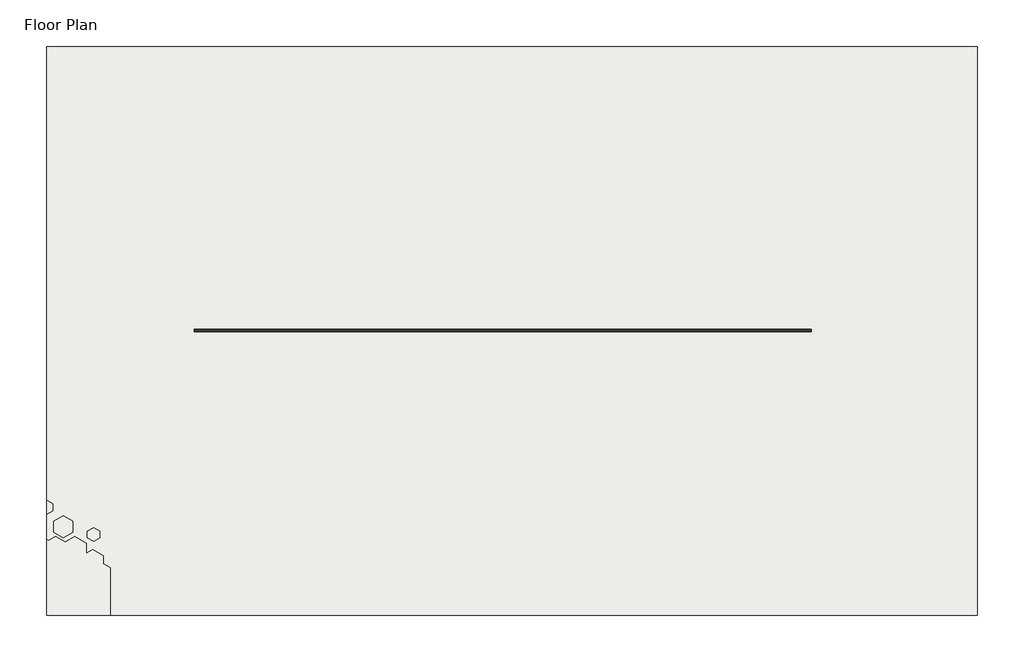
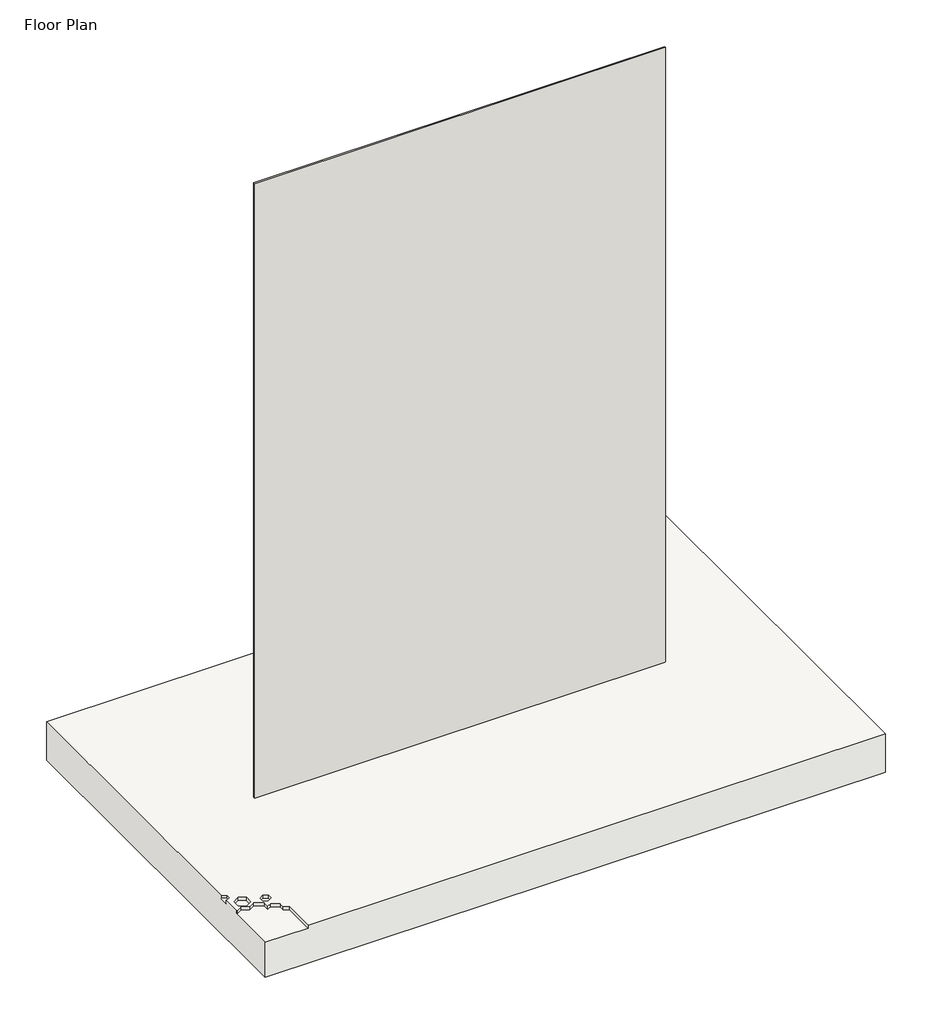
# One storey, incomplete: 1 slab, 1 wall.
"""IFC4 building model written with IfcOpenShell, lengths in millimetres."""

from ifc_helpers import new_model, si_unit, origin, origin_with_axes, place, context, project, spatial, polyline, outline, extrude, faceted_brep, element, save

model = new_model("IFC4")

# Units and contexts
model_context = context("Model", 3, world=origin())
ifc_project = project(units=[si_unit("LENGTHUNIT", "METRE", prefix="MILLI")], contexts=[model_context])

# Site, building, storey
site = spatial("IfcSite", under=ifc_project)
building = spatial("IfcBuilding", under=site)
storey = spatial("IfcBuildingStorey", under=building, Name="Floor Plan", Elevation=0.0)

# Slab
placement = place(None, origin())
element("IfcSlab", 1, ObjectType="Floor 1", at=placement, inside=storey, context=model_context, shape_type="Brep", body=[
    faceted_brep([(233669.564463, -1405.268292, -300.0), (229069.564463, -1405.268292, -300.0), (229069.564463, 1405.268292, -300.0), (233669.564463, 1405.268292, -300.0), (233669.564463, 1405.268292, 0.0), (229069.564463, 1405.268292, 0.0), (229069.564463, -838.8208533, 0.0), (229073.1211266, -836.7674126, 0.0), (229103.8301292, -854.4972635, 0.0), (229103.8301292, -887.6294851, 0.0), (229073.1211266, -905.3593361, 0.0), (229069.564463, -903.3058954, 0.0), (229069.564463, -1029.5470898, 0.0), (229079.1972272, -1035.1085689, 0.0), (229115.3908374, -1014.2121783, 0.0), (229162.4046401, -1041.3556099, 0.0), (229208.4091656, -1014.7948848, 0.0), (229267.6401701, -1048.9919211, 0.0), (229267.6401701, -1095.6301509, 0.0), (229296.9088101, -1078.7318937, 0.0), (229351.5578344, -1110.2835225, 0.0), (229351.5578344, -1149.3943664, 0.0), (229386.1988505, -1169.3943664, 0.0), (229386.1988505, -1405.268292, 0.0), (233669.564463, -1405.268292, 0.0), (229152.4226577, -913.8797767, 0.0), (229198.7748127, -940.6412058, 0.0), (229198.7748127, -995.8128392, 0.0), (229152.4226577, -1022.5742684, 0.0), (229106.0705027, -995.8128392, 0.0), (229106.0705027, -940.6412058, 0.0), (229302.5290945, -971.7658751, 0.0), (229333.3339718, -989.5510793, 0.0), (229333.3339718, -1022.1588741, 0.0), (229302.5290945, -1039.9440783, 0.0), (229271.7242172, -1022.1588741, 0.0), (229271.7242172, -989.5510793, 0.0), (229386.1988505, -1405.268292, -25.0), (229069.564463, -1405.268292, -25.0), (229069.564463, -1029.5470898, -25.0), (229069.564463, -903.3058954, -25.0), (229069.564463, -838.8208533, -25.0), (229386.1988505, -1169.3943664, -25.0), (229351.5578344, -1149.3943664, -25.0), (229351.5578344, -1110.2835225, -25.0), (229296.9088101, -1078.7318937, -25.0), (229267.6401701, -1095.6301509, -25.0), (229267.6401701, -1048.9919211, -25.0), (229208.4091656, -1014.7948848, -25.0), (229162.4046401, -1041.3556099, -25.0), (229115.3908374, -1014.2121783, -25.0), (229079.1972272, -1035.1085689, -25.0), (229198.7748127, -940.6412058, -25.0), (229152.4226577, -913.8797767, -25.0), (229106.0705027, -940.6412058, -25.0), (229106.0705027, -995.8128392, -25.0), (229152.4226577, -1022.5742684, -25.0), (229198.7748127, -995.8128392, -25.0), (229103.8301292, -854.4972635, -25.0), (229073.1211266, -836.7674126, -25.0), (229073.1211266, -905.3593361, -25.0), (229103.8301292, -887.6294851, -25.0), (229333.3339718, -989.5510793, -25.0), (229302.5290945, -971.7658751, -25.0), (229271.7242172, -989.5510793, -25.0), (229271.7242172, -1022.1588741, -25.0), (229302.5290945, -1039.9440783, -25.0), (229333.3339718, -1022.1588741, -25.0)], [[[0, 1, 2, 3]], [[4, 5, 6, 7, 8, 9, 10, 11, 12, 13, 14, 15, 16, 17, 18, 19, 20, 21, 22, 23, 24], [25, 26, 27, 28, 29, 30], [31, 32, 33, 34, 35, 36]], [[1, 0, 24, 23, 37, 38]], [[2, 1, 38, 39, 12, 11, 40, 41, 6, 5]], [[3, 2, 5, 4]], [[42, 43, 44, 45, 46, 47, 48, 49, 50, 51, 39, 38, 37]], [[52, 53, 54, 55, 56, 57]], [[58, 59, 41, 40, 60, 61]], [[62, 63, 64, 65, 66, 67]], [[42, 37, 23, 22]], [[43, 42, 22, 21]], [[44, 43, 21, 20]], [[45, 44, 20, 19]], [[46, 45, 19, 18]], [[47, 46, 18, 17]], [[48, 47, 17, 16]], [[49, 48, 16, 15]], [[50, 49, 15, 14]], [[51, 50, 14, 13]], [[39, 51, 13, 12]], [[53, 52, 26, 25]], [[54, 53, 25, 30]], [[55, 54, 30, 29]], [[56, 55, 29, 28]], [[57, 56, 28, 27]], [[52, 57, 27, 26]], [[59, 58, 8, 7]], [[41, 59, 7, 6]], [[60, 40, 11, 10]], [[61, 60, 10, 9]], [[58, 61, 9, 8]], [[63, 62, 32, 31]], [[64, 63, 31, 36]], [[65, 64, 36, 35]], [[66, 65, 35, 34]], [[67, 66, 34, 33]], [[62, 67, 33, 32]], [[0, 3, 4, 24]]]),
])

# Wall
element("IfcWall", 2, ObjectType="Cemintel Scarborough Weatherboard 12mm x 175mm x 4200mm", at=placement, inside=storey, context=model_context, shape_type="SweptSolid", body=[
    extrude(outline(polyline([(232848.0, -4.5), (229800.0, -4.5), (229800.0, 7.5), (232848.0, 7.5), (232848.0, -4.5)])), origin_with_axes(), (0.0, 0.0, 1.0), 4820.0),
])

save(model, "model.ifc")
